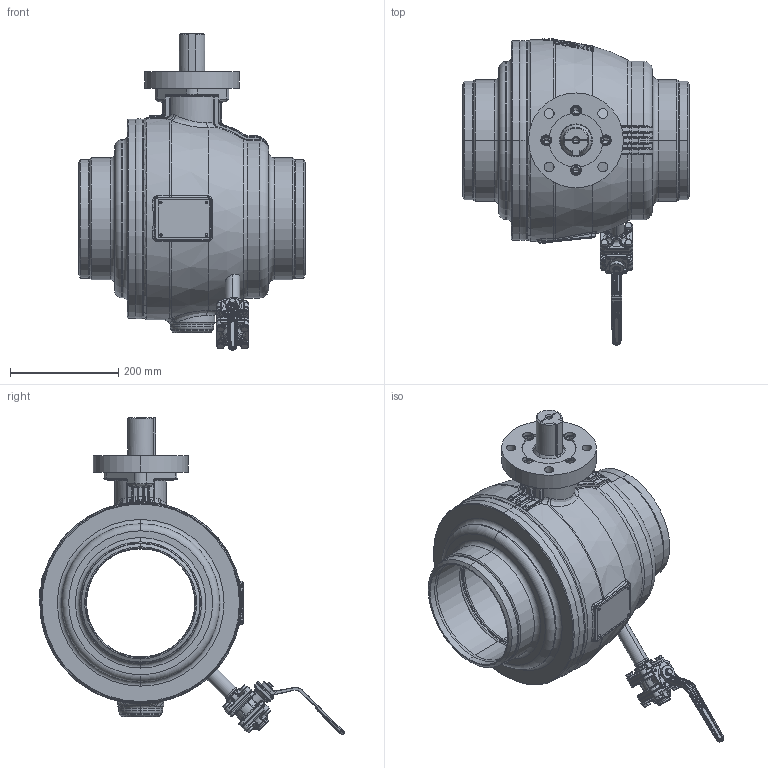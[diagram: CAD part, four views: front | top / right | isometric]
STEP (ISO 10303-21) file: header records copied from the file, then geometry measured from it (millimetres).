
FILE_DESCRIPTION((''),'2;1');
FILE_NAME('KHSVI_200_FG_FR_WE_F14_ENTL','2026-01-27T14:22:45',('schwaba'),('KLINGER'),'CREO PARAMETRIC BY PTC INC, 2023014','CREO PARAMETRIC BY PTC INC, 2023014','');
FILE_SCHEMA(('CONFIG_CONTROL_DESIGN'));
Products named in the file (1): KHSVI_200_FG_FR_WE_F14_ENTL
Bounding box: 419 x 565.08 x 585.07 mm (x, y, z)
Volume: 12803262.5 mm3; surface area: 1927505.2 mm2
Topology: 1 solids, 3 shells, 3090 faces, 7488 edges, 4485 vertices
Faces by surface type: plane 937, cylinder 778, bspline 577, torus 427, cone 311, sphere 39, revolution 16, extrusion 5
Entity records: 187578 total; most frequent: CARTESIAN_POINT 119939, ORIENTED_EDGE 14932, DIRECTION 13305, EDGE_CURVE 7466, AXIS2_PLACEMENT_3D 5571, VERTEX_POINT 4485, EDGE_LOOP 3283, FACE_OUTER_BOUND 3090
